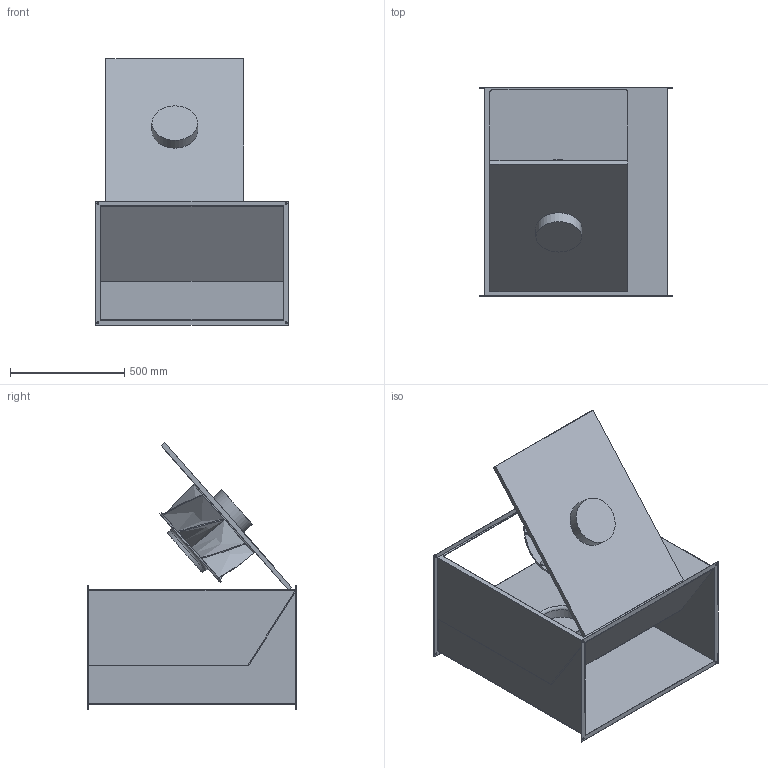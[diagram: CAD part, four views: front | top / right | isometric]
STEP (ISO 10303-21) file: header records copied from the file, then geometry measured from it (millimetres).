
FILE_DESCRIPTION(/* description */ (''),/* implementation_level */ '2;1');
FILE_NAME(/* name */ 'Z:\Output\KRD_EC_500-80-50_A-08174-003.stp',/* time_stamp */ '2017-07-19T15:45:31+02:00',/* author */ ('Engineering1'),/* organization */ (''),/* preprocessor_version */ 'ST-DEVELOPER v16.5',/* originating_system */ 'Autodesk Inventor 2017',/* authorisation */ '');
FILE_SCHEMA (('AUTOMOTIVE_DESIGN { 1 0 10303 214 3 1 1 }'));
Length unit declared in the file: millimetre
Products named in the file (1): KR-1
Bounding box: 843 x 912 x 1165.12 mm (x, y, z)
Volume: 21254329.9 mm3; surface area: 7882953 mm2
Topology: 1 solids, 1 shells, 130 faces, 336 edges, 199 vertices
Faces by surface type: plane 84, bspline 24, cylinder 19, torus 3
Full cylindrical faces by diameter (mm): 9 x8, 200 x3, 220 x1, 232 x1, 400 x2
Entity records: 4451 total; most frequent: CARTESIAN_POINT 1212, ORIENTED_EDGE 636, DIRECTION 595, EDGE_CURVE 316, LINE 203, VECTOR 203, VERTEX_POINT 197, AXIS2_PLACEMENT_3D 196
